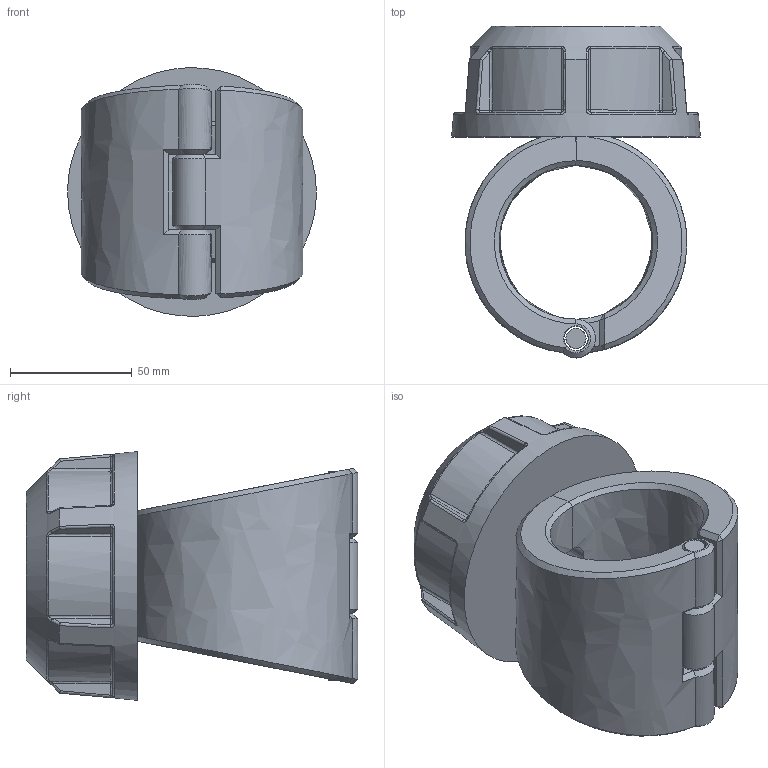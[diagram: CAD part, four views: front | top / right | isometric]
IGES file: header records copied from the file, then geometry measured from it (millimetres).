
Global section: file name: 163000063007; native system: Autodesk Inventor 2019; preprocessor: unknown; author: comp2; date: 20220203.114634; units: millimetre
Bounding box: 102 x 136 x 101.96 mm (x, y, z)
Volume: 498673.3 mm3; surface area: 78753.4 mm2
Topology: 4 solids, 4 shells, 203 faces, 486 edges, 293 vertices
Faces by surface type: bspline 203
